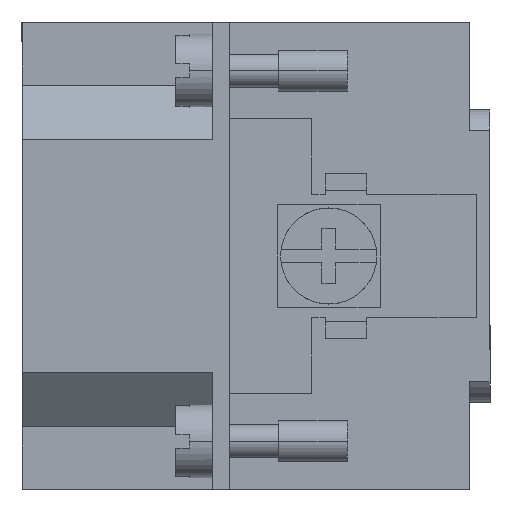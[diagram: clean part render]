
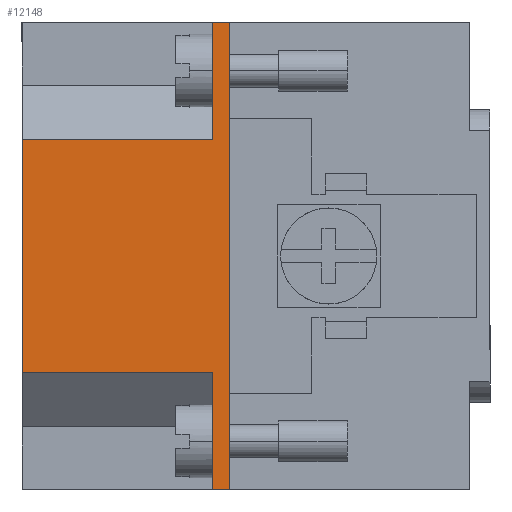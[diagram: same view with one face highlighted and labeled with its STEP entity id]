
A CAD part, left-side view. The second image highlights one B-rep face of the part: STEP entity #12148.
In plain terms, the highlighted planar face has unit normal (-1, 0, 0).
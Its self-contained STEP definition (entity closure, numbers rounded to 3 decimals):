
#176 = VERTEX_POINT ( 'NONE', #15447 ) ;
#730 = ORIENTED_EDGE ( 'NONE', *, *, #31313, .T. ) ;
#962 = ORIENTED_EDGE ( 'NONE', *, *, #25579, .F. ) ;
#1194 = ORIENTED_EDGE ( 'NONE', *, *, #9337, .T. ) ;
#1246 = CARTESIAN_POINT ( 'NONE',  ( -55.5, -15.1, -17. ) ) ;
#1405 = ORIENTED_EDGE ( 'NONE', *, *, #25966, .T. ) ;
#1721 = VERTEX_POINT ( 'NONE', #4269 ) ;
#2127 = VECTOR ( 'NONE', #20409, 1000. ) ;
#2330 = DIRECTION ( 'NONE',  ( 1., 0., 0. ) ) ;
#2564 = DIRECTION ( 'NONE',  ( 0., 0., 1. ) ) ;
#2628 = VECTOR ( 'NONE', #12705, 1000. ) ;
#2889 = CARTESIAN_POINT ( 'NONE',  ( -55.5, 0., 8.5 ) ) ;
#2967 = VECTOR ( 'NONE', #2564, 1000. ) ;
#3127 = VERTEX_POINT ( 'NONE', #19673 ) ;
#3319 = CARTESIAN_POINT ( 'NONE',  ( -55.5, -15.1, 17. ) ) ;
#3676 = ORIENTED_EDGE ( 'NONE', *, *, #27459, .T. ) ;
#4269 = CARTESIAN_POINT ( 'NONE',  ( -55.5, -13.9, -17. ) ) ;
#4940 = LINE ( 'NONE', #24875, #2628 ) ;
#5310 = VECTOR ( 'NONE', #21530, 1000. ) ;
#5442 = VECTOR ( 'NONE', #16728, 1000. ) ;
#5994 = EDGE_CURVE ( 'NONE', #11686, #28165, #27785, .T. ) ;
#6177 = CARTESIAN_POINT ( 'NONE',  ( -55.5, -13.9, 17. ) ) ;
#6680 = CARTESIAN_POINT ( 'NONE',  ( -55.5, 0., 8.5 ) ) ;
#8421 = CARTESIAN_POINT ( 'NONE',  ( -55.5, -13.9, -17. ) ) ;
#8707 = VECTOR ( 'NONE', #16862, 1000. ) ;
#9337 = EDGE_CURVE ( 'NONE', #1721, #176, #4940, .T. ) ;
#9989 = PLANE ( 'NONE',  #14161 ) ;
#11400 = LINE ( 'NONE', #1246, #2127 ) ;
#11686 = VERTEX_POINT ( 'NONE', #20217 ) ;
#11969 = CARTESIAN_POINT ( 'NONE',  ( -55.5, -13.9, -17. ) ) ;
#12148 = ADVANCED_FACE ( 'NONE', ( #17930 ), #9989, .F. ) ;
#12434 = CARTESIAN_POINT ( 'NONE',  ( -55.5, 0., 8.5 ) ) ;
#12705 = DIRECTION ( 'NONE',  ( 0., -1., 0. ) ) ;
#12991 = VERTEX_POINT ( 'NONE', #3319 ) ;
#14161 = AXIS2_PLACEMENT_3D ( 'NONE', #22541, #2330, #22443 ) ;
#14410 = ORIENTED_EDGE ( 'NONE', *, *, #5994, .F. ) ;
#14448 = DIRECTION ( 'NONE',  ( 0., 1., 0. ) ) ;
#15346 = LINE ( 'NONE', #16114, #5310 ) ;
#15447 = CARTESIAN_POINT ( 'NONE',  ( -55.5, -15.1, -17. ) ) ;
#15883 = LINE ( 'NONE', #6680, #5442 ) ;
#15980 = VECTOR ( 'NONE', #25554, 1000. ) ;
#16114 = CARTESIAN_POINT ( 'NONE',  ( -55.5, 0., -8.5 ) ) ;
#16728 = DIRECTION ( 'NONE',  ( 0., -1., 0. ) ) ;
#16862 = DIRECTION ( 'NONE',  ( 0., 0., -1. ) ) ;
#17873 = EDGE_CURVE ( 'NONE', #3127, #1721, #24237, .T. ) ;
#17930 = FACE_OUTER_BOUND ( 'NONE', #27926, .T. ) ;
#19673 = CARTESIAN_POINT ( 'NONE',  ( -55.5, -13.9, -8.5 ) ) ;
#20217 = CARTESIAN_POINT ( 'NONE',  ( -55.5, 0., -8.5 ) ) ;
#20409 = DIRECTION ( 'NONE',  ( 0., 0., 1. ) ) ;
#21364 = LINE ( 'NONE', #26636, #25646 ) ;
#21530 = DIRECTION ( 'NONE',  ( 0., -1., 0. ) ) ;
#22209 = LINE ( 'NONE', #8421, #15980 ) ;
#22443 = DIRECTION ( 'NONE',  ( 0., 1., 0. ) ) ;
#22541 = CARTESIAN_POINT ( 'NONE',  ( -55.5, -15.1, 0. ) ) ;
#23769 = ORIENTED_EDGE ( 'NONE', *, *, #17873, .T. ) ;
#24237 = LINE ( 'NONE', #11969, #8707 ) ;
#24875 = CARTESIAN_POINT ( 'NONE',  ( -55.5, -13.9, -17. ) ) ;
#25554 = DIRECTION ( 'NONE',  ( 0., 0., -1. ) ) ;
#25579 = EDGE_CURVE ( 'NONE', #28165, #28180, #15883, .T. ) ;
#25646 = VECTOR ( 'NONE', #14448, 1000. ) ;
#25966 = EDGE_CURVE ( 'NONE', #176, #12991, #11400, .T. ) ;
#26636 = CARTESIAN_POINT ( 'NONE',  ( -55.5, -13.9, 17. ) ) ;
#26693 = EDGE_CURVE ( 'NONE', #28476, #28180, #22209, .T. ) ;
#27459 = EDGE_CURVE ( 'NONE', #12991, #28476, #21364, .T. ) ;
#27544 = CARTESIAN_POINT ( 'NONE',  ( -55.5, -13.9, 8.5 ) ) ;
#27785 = LINE ( 'NONE', #2889, #2967 ) ;
#27899 = ORIENTED_EDGE ( 'NONE', *, *, #26693, .T. ) ;
#27926 = EDGE_LOOP ( 'NONE', ( #27899, #962, #14410, #730, #23769, #1194, #1405, #3676 ) ) ;
#28165 = VERTEX_POINT ( 'NONE', #12434 ) ;
#28180 = VERTEX_POINT ( 'NONE', #27544 ) ;
#28476 = VERTEX_POINT ( 'NONE', #6177 ) ;
#31313 = EDGE_CURVE ( 'NONE', #11686, #3127, #15346, .T. ) ;
